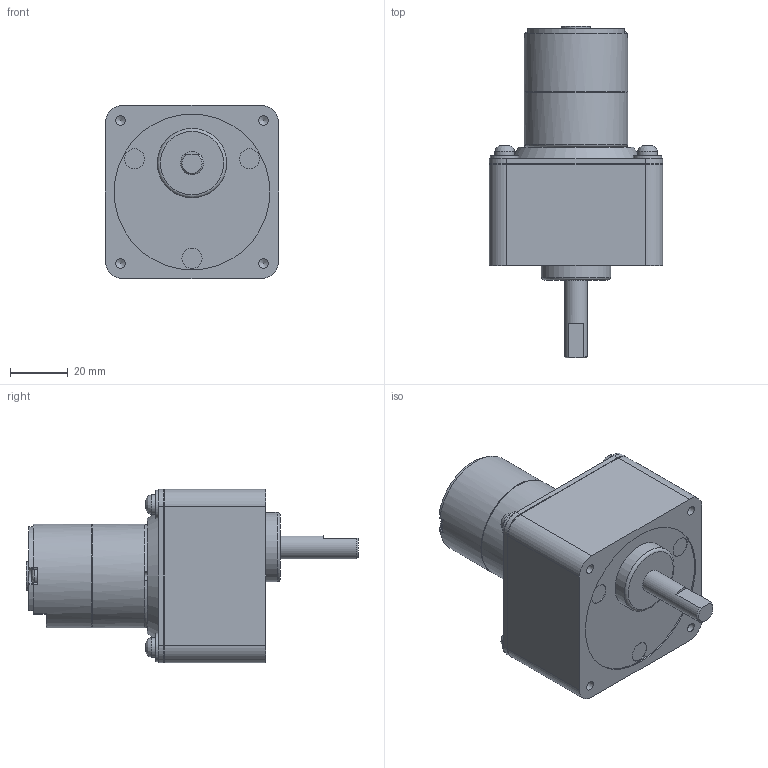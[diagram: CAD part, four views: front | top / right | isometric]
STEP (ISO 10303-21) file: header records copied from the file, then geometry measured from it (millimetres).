
FILE_DESCRIPTION((''),'2;1');
FILE_NAME('C:\Documents and Settings\SSEGAWA\デスクトップ\TP-3641A-CM-3.STP','2013-07-30T23:14:34',('SSEGAWA'),(''),'Autodesk Inventor 2010','Autodesk Inventor 2010','');
FILE_SCHEMA(('CONFIG_CONTROL_DESIGN'));
Length unit declared in the file: millimetre
Products named in the file (1): tp_3641abcde_cm_3_Shrinkwrap_1
Bounding box: 60 x 115 x 60 mm (x, y, z)
Volume: 181000.3 mm3; surface area: 23239.1 mm2
Topology: 1 solids, 8 shells, 212 faces, 497 edges, 327 vertices
Faces by surface type: plane 116, cylinder 53, bspline 37, torus 4, cone 2
Full cylindrical faces by diameter (mm): 2.5 x1, 5 x1, 6.8 x4, 7 x3, 8 x1, 9.8 x4, 10 x1, 24 x1, 35.6 x1, 36 x2, 54 x1
Entity records: 6348 total; most frequent: CARTESIAN_POINT 1702, DIRECTION 914, ORIENTED_EDGE 810, EDGE_CURVE 405, AXIS2_PLACEMENT_3D 339, EDGE_LOOP 297, VERTEX_POINT 294, VECTOR 236
